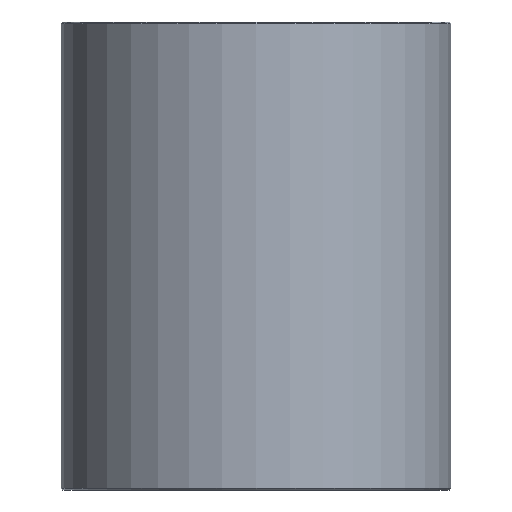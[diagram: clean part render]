
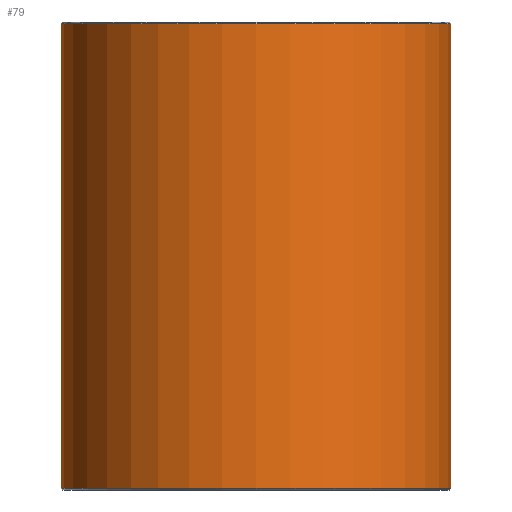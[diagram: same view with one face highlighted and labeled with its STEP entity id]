
A CAD part, front view. The second image highlights one B-rep face of the part: STEP entity #79.
In plain terms, the highlighted cylindrical face has radius 25 mm (diameter 50 mm), a full revolution.
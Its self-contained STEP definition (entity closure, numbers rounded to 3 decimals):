
#79=ADVANCED_FACE('',(#96,#97),#98,.T.);
#96=FACE_OUTER_BOUND('',#120,.T.);
#97=FACE_OUTER_BOUND('',#121,.T.);
#98=CYLINDRICAL_SURFACE('',#122,25.0);
#120=EDGE_LOOP('',(#152));
#121=EDGE_LOOP('',(#153));
#122=AXIS2_PLACEMENT_3D('',#154,#155,#156);
#152=ORIENTED_EDGE('',*,*,#178,.T.);
#153=ORIENTED_EDGE('',*,*,#177,.T.);
#154=CARTESIAN_POINT('',(0.,0.0,60.0));
#155=DIRECTION('',(0.0,0.0,-1.0));
#156=DIRECTION('',(-1.0,0.0,0.0));
#177=EDGE_CURVE('',#190,#190,#191,.T.);
#178=EDGE_CURVE('',#192,#192,#193,.F.);
#190=VERTEX_POINT('',#206);
#191=CIRCLE('',#207,25.0);
#192=VERTEX_POINT('',#208);
#193=CIRCLE('',#209,25.0);
#206=CARTESIAN_POINT('',(25.0,0.0,0.2));
#207=AXIS2_PLACEMENT_3D('',#227,#228,#229);
#208=CARTESIAN_POINT('',(25.0,0.,59.8));
#209=AXIS2_PLACEMENT_3D('',#230,#231,#232);
#227=CARTESIAN_POINT('',(0.,0.0,0.2));
#228=DIRECTION('',(0.0,0.0,1.0));
#229=DIRECTION('',(1.0,0.0,0.0));
#230=CARTESIAN_POINT('',(0.,0.0,59.8));
#231=DIRECTION('',(0.0,0.0,1.0));
#232=DIRECTION('',(1.0,0.0,0.0));
